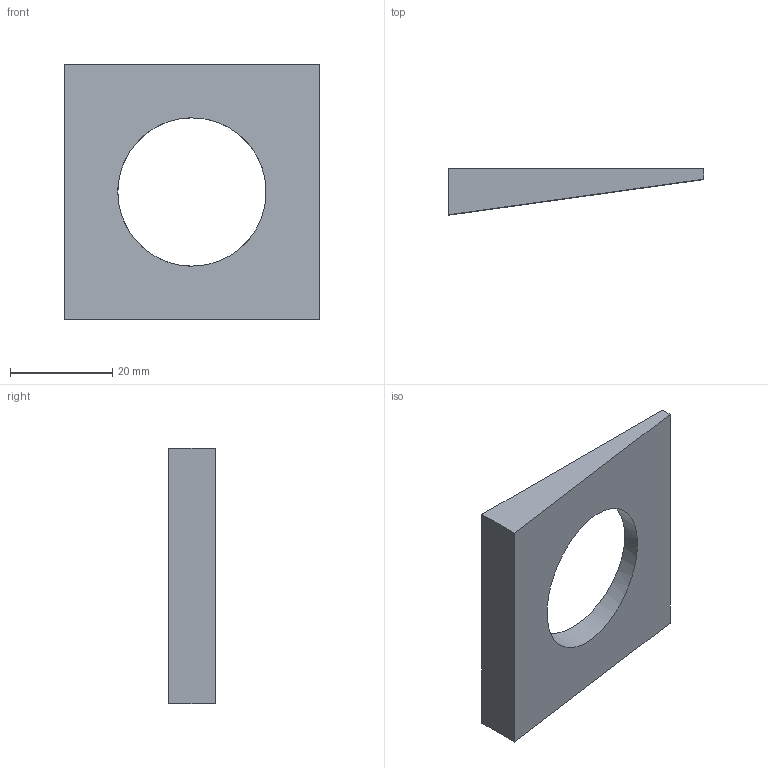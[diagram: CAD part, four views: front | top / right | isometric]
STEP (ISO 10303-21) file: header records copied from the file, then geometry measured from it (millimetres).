
FILE_DESCRIPTION(/* description */ (''),/* implementation_level */ '2;1');
FILE_NAME(/* name */ 'C:\Users\D\Documents\Inventor\HP\JIS\締結部品\座金\テーパ座金8°\tw8-m27.stp',/* time_stamp */ '2024-09-27T15:46:07+09:00',/* author */ ('D'),/* organization */ (''),/* preprocessor_version */ 'ST-DEVELOPER v18',/* originating_system */ 'Autodesk Inventor 2020',/* authorisation */ '');
FILE_SCHEMA (('AUTOMOTIVE_DESIGN { 1 0 10303 214 3 1 1 }'));
Length unit declared in the file: millimetre
Products named in the file (1): tw5-m5
Bounding box: 50 x 9 x 50 mm (x, y, z)
Volume: 10155.2 mm3; surface area: 5303.8 mm2
Topology: 1 solids, 1 shells, 7 faces, 16 edges, 11 vertices
Faces by surface type: plane 6, cylinder 1
Full cylindrical faces by diameter (mm): 29 x1
Entity records: 246 total; most frequent: DIRECTION 35, CARTESIAN_POINT 35, ORIENTED_EDGE 32, EDGE_CURVE 16, LINE 13, VECTOR 13, VERTEX_POINT 11, AXIS2_PLACEMENT_3D 11
